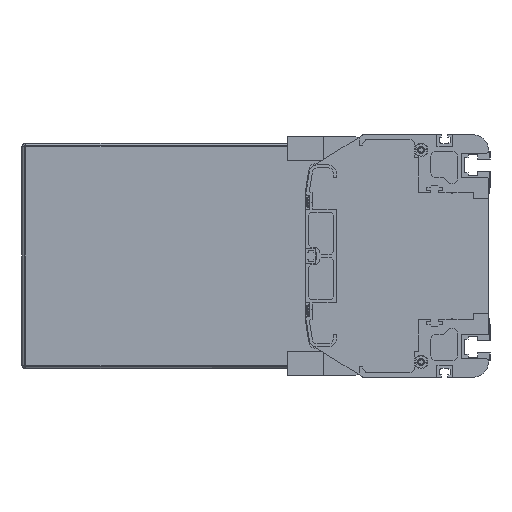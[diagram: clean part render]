
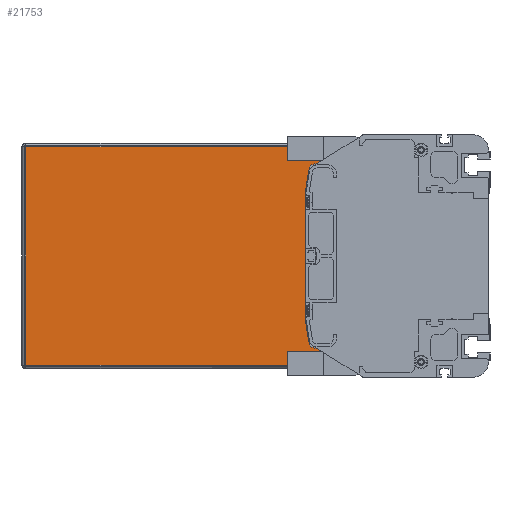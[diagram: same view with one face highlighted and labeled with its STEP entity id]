
A CAD part, left-side view. The second image highlights one B-rep face of the part: STEP entity #21753.
In plain terms, the highlighted planar face has unit normal (-1, 0, 0).
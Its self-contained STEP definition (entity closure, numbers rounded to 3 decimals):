
#260=DIRECTION('',(0.,-1.,0.));
#261=VECTOR('',#260,220.5);
#262=CARTESIAN_POINT('',(2586.5,306.5,-72.));
#263=LINE('',#262,#261);
#461=DIRECTION('',(0.,0.,-1.));
#462=VECTOR('',#461,11.);
#463=CARTESIAN_POINT('',(2586.5,86.,-61.));
#464=LINE('',#463,#462);
#470=DIRECTION('',(0.,0.,-1.));
#471=VECTOR('',#470,11.);
#472=CARTESIAN_POINT('',(2586.5,86.,72.));
#473=LINE('',#472,#471);
#479=CARTESIAN_POINT('',(2586.5,114.728,56.));
#480=DIRECTION('',(-1.,0.,0.));
#481=DIRECTION('',(0.,0.,1.));
#482=AXIS2_PLACEMENT_3D('',#479,#480,#481);
#484=DIRECTION('',(0.,0.156,-0.988));
#485=VECTOR('',#484,14.963);
#486=CARTESIAN_POINT('',(2586.5,119.666,56.78));
#487=LINE('',#486,#485);
#488=DIRECTION('',(0.,-0.156,-0.988));
#489=VECTOR('',#488,14.963);
#490=CARTESIAN_POINT('',(2586.5,122.,-42.));
#491=LINE('',#490,#489);
#492=CARTESIAN_POINT('',(2586.5,114.728,-56.));
#493=DIRECTION('',(-1.,0.,0.));
#494=DIRECTION('',(0.,0.988,-0.156));
#495=AXIS2_PLACEMENT_3D('',#492,#493,#494);
#501=DIRECTION('',(0.,0.,-1.));
#502=VECTOR('',#501,144.);
#503=CARTESIAN_POINT('',(2586.5,306.5,72.));
#504=LINE('',#503,#502);
#591=DIRECTION('',(0.,1.,0.));
#592=VECTOR('',#591,220.5);
#593=CARTESIAN_POINT('',(2586.5,86.,72.));
#594=LINE('',#593,#592);
#878=DIRECTION('',(0.,-1.,0.));
#879=VECTOR('',#878,28.728);
#880=CARTESIAN_POINT('',(2586.5,114.728,61.));
#881=LINE('',#880,#879);
#13380=DIRECTION('',(0.,1.,0.));
#13381=VECTOR('',#13380,28.728);
#13382=CARTESIAN_POINT('',(2586.5,86.,-61.));
#13383=LINE('',#13382,#13381);
#13400=DIRECTION('',(0.,0.,1.));
#13401=VECTOR('',#13400,84.);
#13402=CARTESIAN_POINT('',(2586.5,122.,-42.));
#13403=LINE('',#13402,#13401);
#17241=CARTESIAN_POINT('',(2586.5,306.5,-72.));
#17242=CARTESIAN_POINT('',(2586.5,86.,-72.));
#17243=VERTEX_POINT('',#17241);
#17244=VERTEX_POINT('',#17242);
#17245=CARTESIAN_POINT('',(2586.5,86.,-61.));
#17246=VERTEX_POINT('',#17245);
#17247=CARTESIAN_POINT('',(2586.5,114.728,-61.));
#17248=VERTEX_POINT('',#17247);
#17249=CARTESIAN_POINT('',(2586.5,119.666,-56.78));
#17250=VERTEX_POINT('',#17249);
#17251=CARTESIAN_POINT('',(2586.5,122.,-42.));
#17252=VERTEX_POINT('',#17251);
#17253=CARTESIAN_POINT('',(2586.5,122.,42.));
#17254=VERTEX_POINT('',#17253);
#17255=CARTESIAN_POINT('',(2586.5,119.666,56.78));
#17256=VERTEX_POINT('',#17255);
#17257=CARTESIAN_POINT('',(2586.5,114.728,61.));
#17258=VERTEX_POINT('',#17257);
#17259=CARTESIAN_POINT('',(2586.5,86.,61.));
#17260=VERTEX_POINT('',#17259);
#17261=CARTESIAN_POINT('',(2586.5,86.,72.));
#17262=VERTEX_POINT('',#17261);
#17263=CARTESIAN_POINT('',(2586.5,306.5,72.));
#17264=VERTEX_POINT('',#17263);
#21725=CARTESIAN_POINT('',(2586.5,196.25,0.));
#21726=DIRECTION('',(1.,0.,0.));
#21727=DIRECTION('',(0.,0.,-1.));
#21728=AXIS2_PLACEMENT_3D('',#21725,#21726,#21727);
#21729=PLANE('',#21728);
#21730=ORIENTED_EDGE('',*,*,#21280,.F.);
#21732=ORIENTED_EDGE('',*,*,#21731,.F.);
#21734=ORIENTED_EDGE('',*,*,#21733,.F.);
#21735=ORIENTED_EDGE('',*,*,#21718,.T.);
#21737=ORIENTED_EDGE('',*,*,#21736,.F.);
#21739=ORIENTED_EDGE('',*,*,#21738,.T.);
#21741=ORIENTED_EDGE('',*,*,#21740,.T.);
#21743=ORIENTED_EDGE('',*,*,#21742,.F.);
#21745=ORIENTED_EDGE('',*,*,#21744,.T.);
#21747=ORIENTED_EDGE('',*,*,#21746,.T.);
#21749=ORIENTED_EDGE('',*,*,#21748,.F.);
#21750=ORIENTED_EDGE('',*,*,#21686,.T.);
#21751=EDGE_LOOP('',(#21730,#21732,#21734,#21735,#21737,#21739,#21741,#21743,
#21745,#21747,#21749,#21750));
#21752=FACE_OUTER_BOUND('',#21751,.F.);
#21753=ADVANCED_FACE('',(#21752),#21729,.F.);
#483=CIRCLE('',#482,5.);
#496=CIRCLE('',#495,5.);
#21280=EDGE_CURVE('',#17243,#17244,#263,.T.);
#21686=EDGE_CURVE('',#17246,#17244,#464,.T.);
#21718=EDGE_CURVE('',#17262,#17260,#473,.T.);
#21731=EDGE_CURVE('',#17264,#17243,#504,.T.);
#21733=EDGE_CURVE('',#17262,#17264,#594,.T.);
#21736=EDGE_CURVE('',#17258,#17260,#881,.T.);
#21738=EDGE_CURVE('',#17258,#17256,#483,.T.);
#21740=EDGE_CURVE('',#17256,#17254,#487,.T.);
#21742=EDGE_CURVE('',#17252,#17254,#13403,.T.);
#21744=EDGE_CURVE('',#17252,#17250,#491,.T.);
#21746=EDGE_CURVE('',#17250,#17248,#496,.T.);
#21748=EDGE_CURVE('',#17246,#17248,#13383,.T.);
